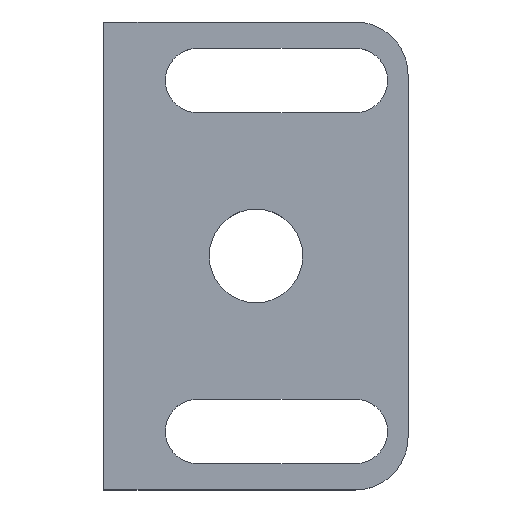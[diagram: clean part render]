
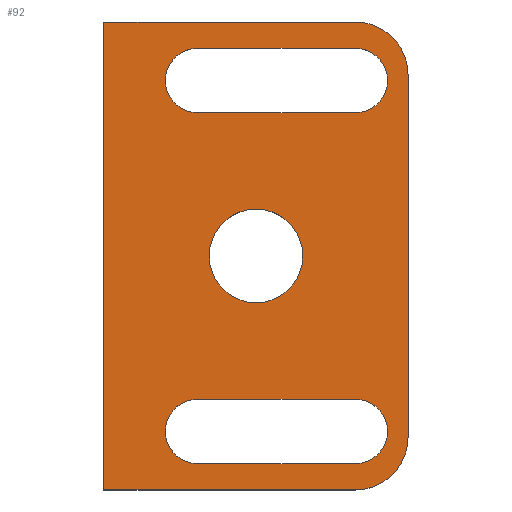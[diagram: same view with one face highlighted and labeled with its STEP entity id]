
A CAD part, top view. The second image highlights one B-rep face of the part: STEP entity #92.
In plain terms, the highlighted planar face has unit normal (0, 0, 1).
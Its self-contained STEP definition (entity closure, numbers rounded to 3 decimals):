
#92 = ADVANCED_FACE( '', ( #131, #132, #133, #134 ), #135, .T. );
#131 = FACE_OUTER_BOUND( '', #173, .T. );
#132 = FACE_BOUND( '', #174, .T. );
#133 = FACE_BOUND( '', #175, .T. );
#134 = FACE_BOUND( '', #176, .T. );
#135 = PLANE( '', #177 );
#173 = EDGE_LOOP( '', ( #309, #310, #311, #312, #313, #314 ) );
#174 = EDGE_LOOP( '', ( #315, #316 ) );
#175 = EDGE_LOOP( '', ( #317, #318, #319, #320 ) );
#176 = EDGE_LOOP( '', ( #321, #322, #323, #324 ) );
#177 = AXIS2_PLACEMENT_3D( '', #325, #326, #327 );
#309 = ORIENTED_EDGE( '', *, *, #375, .T. );
#310 = ORIENTED_EDGE( '', *, *, #360, .T. );
#311 = ORIENTED_EDGE( '', *, *, #364, .T. );
#312 = ORIENTED_EDGE( '', *, *, #367, .T. );
#313 = ORIENTED_EDGE( '', *, *, #370, .T. );
#314 = ORIENTED_EDGE( '', *, *, #373, .T. );
#315 = ORIENTED_EDGE( '', *, *, #329, .F. );
#316 = ORIENTED_EDGE( '', *, *, #357, .F. );
#317 = ORIENTED_EDGE( '', *, *, #355, .F. );
#318 = ORIENTED_EDGE( '', *, *, #346, .F. );
#319 = ORIENTED_EDGE( '', *, *, #350, .F. );
#320 = ORIENTED_EDGE( '', *, *, #353, .F. );
#321 = ORIENTED_EDGE( '', *, *, #343, .F. );
#322 = ORIENTED_EDGE( '', *, *, #334, .F. );
#323 = ORIENTED_EDGE( '', *, *, #338, .F. );
#324 = ORIENTED_EDGE( '', *, *, #341, .F. );
#325 = CARTESIAN_POINT( '', ( 0., 0., 2.5 ) );
#326 = DIRECTION( '', ( 0., 0., 1. ) );
#327 = DIRECTION( '', ( 1., 0., 0. ) );
#329 = EDGE_CURVE( '', #376, #379, #380, .T. );
#334 = EDGE_CURVE( '', #387, #389, #390, .T. );
#338 = EDGE_CURVE( '', #394, #387, #396, .T. );
#341 = EDGE_CURVE( '', #399, #394, #401, .T. );
#343 = EDGE_CURVE( '', #389, #399, #403, .T. );
#346 = EDGE_CURVE( '', #407, #409, #410, .T. );
#350 = EDGE_CURVE( '', #414, #407, #416, .T. );
#353 = EDGE_CURVE( '', #419, #414, #421, .T. );
#355 = EDGE_CURVE( '', #409, #419, #423, .T. );
#357 = EDGE_CURVE( '', #379, #376, #425, .T. );
#360 = EDGE_CURVE( '', #431, #429, #432, .T. );
#364 = EDGE_CURVE( '', #429, #436, #438, .T. );
#367 = EDGE_CURVE( '', #436, #441, #443, .T. );
#370 = EDGE_CURVE( '', #441, #446, #448, .T. );
#373 = EDGE_CURVE( '', #446, #451, #453, .T. );
#375 = EDGE_CURVE( '', #451, #431, #455, .T. );
#376 = VERTEX_POINT( '', #456 );
#379 = VERTEX_POINT( '', #460 );
#380 = CIRCLE( '', #461, 4. );
#387 = VERTEX_POINT( '', #469 );
#389 = VERTEX_POINT( '', #472 );
#390 = CIRCLE( '', #473, 2.75 );
#394 = VERTEX_POINT( '', #479 );
#396 = LINE( '', #482, #483 );
#399 = VERTEX_POINT( '', #486 );
#401 = CIRCLE( '', #489, 2.75 );
#403 = LINE( '', #492, #493 );
#407 = VERTEX_POINT( '', #497 );
#409 = VERTEX_POINT( '', #500 );
#410 = CIRCLE( '', #501, 2.75 );
#414 = VERTEX_POINT( '', #507 );
#416 = LINE( '', #510, #511 );
#419 = VERTEX_POINT( '', #514 );
#421 = CIRCLE( '', #517, 2.75 );
#423 = LINE( '', #520, #521 );
#425 = CIRCLE( '', #523, 4. );
#429 = VERTEX_POINT( '', #528 );
#431 = VERTEX_POINT( '', #531 );
#432 = LINE( '', #532, #533 );
#436 = VERTEX_POINT( '', #538 );
#438 = CIRCLE( '', #541, 4.5 );
#441 = VERTEX_POINT( '', #545 );
#443 = LINE( '', #548, #549 );
#446 = VERTEX_POINT( '', #552 );
#448 = CIRCLE( '', #555, 4.5 );
#451 = VERTEX_POINT( '', #559 );
#453 = LINE( '', #562, #563 );
#455 = LINE( '', #566, #567 );
#456 = CARTESIAN_POINT( '', ( 17., 0., 2.5 ) );
#460 = CARTESIAN_POINT( '', ( 9., 0., 2.5 ) );
#461 = AXIS2_PLACEMENT_3D( '', #569, #570, #571 );
#469 = CARTESIAN_POINT( '', ( 21.5, -17.75, 2.5 ) );
#472 = CARTESIAN_POINT( '', ( 21.5, -12.25, 2.5 ) );
#473 = AXIS2_PLACEMENT_3D( '', #580, #581, #582 );
#479 = CARTESIAN_POINT( '', ( 8., -17.75, 2.5 ) );
#482 = CARTESIAN_POINT( '', ( 8., -17.75, 2.5 ) );
#483 = VECTOR( '', #586, 1. );
#486 = CARTESIAN_POINT( '', ( 8., -12.25, 2.5 ) );
#489 = AXIS2_PLACEMENT_3D( '', #591, #592, #593 );
#492 = CARTESIAN_POINT( '', ( 21.5, -12.25, 2.5 ) );
#493 = VECTOR( '', #595, 1. );
#497 = CARTESIAN_POINT( '', ( 21.5, 12.25, 2.5 ) );
#500 = CARTESIAN_POINT( '', ( 21.5, 17.75, 2.5 ) );
#501 = AXIS2_PLACEMENT_3D( '', #600, #601, #602 );
#507 = CARTESIAN_POINT( '', ( 8., 12.25, 2.5 ) );
#510 = CARTESIAN_POINT( '', ( 8., 12.25, 2.5 ) );
#511 = VECTOR( '', #606, 1. );
#514 = CARTESIAN_POINT( '', ( 8., 17.75, 2.5 ) );
#517 = AXIS2_PLACEMENT_3D( '', #611, #612, #613 );
#520 = CARTESIAN_POINT( '', ( 21.5, 17.75, 2.5 ) );
#521 = VECTOR( '', #615, 1. );
#523 = AXIS2_PLACEMENT_3D( '', #619, #620, #621 );
#528 = CARTESIAN_POINT( '', ( 21.5, -20., 2.5 ) );
#531 = CARTESIAN_POINT( '', ( 0., -20., 2.5 ) );
#532 = CARTESIAN_POINT( '', ( 0., -20., 2.5 ) );
#533 = VECTOR( '', #624, 1. );
#538 = CARTESIAN_POINT( '', ( 26., -15.5, 2.5 ) );
#541 = AXIS2_PLACEMENT_3D( '', #630, #631, #632 );
#545 = CARTESIAN_POINT( '', ( 26., 15.5, 2.5 ) );
#548 = CARTESIAN_POINT( '', ( 26., -15.5, 2.5 ) );
#549 = VECTOR( '', #635, 1. );
#552 = CARTESIAN_POINT( '', ( 21.5, 20., 2.5 ) );
#555 = AXIS2_PLACEMENT_3D( '', #640, #641, #642 );
#559 = CARTESIAN_POINT( '', ( 0., 20., 2.5 ) );
#562 = CARTESIAN_POINT( '', ( 21.5, 20., 2.5 ) );
#563 = VECTOR( '', #645, 1. );
#566 = CARTESIAN_POINT( '', ( 0., 20., 2.5 ) );
#567 = VECTOR( '', #647, 1. );
#569 = CARTESIAN_POINT( '', ( 13., 0., 2.5 ) );
#570 = DIRECTION( '', ( 0., 0., 1. ) );
#571 = DIRECTION( '', ( 1., 0., 0. ) );
#580 = CARTESIAN_POINT( '', ( 21.5, -15., 2.5 ) );
#581 = DIRECTION( '', ( 0., 0., 1. ) );
#582 = DIRECTION( '', ( 0., -1., 0. ) );
#586 = DIRECTION( '', ( 1., 0., 0. ) );
#591 = CARTESIAN_POINT( '', ( 8., -15., 2.5 ) );
#592 = DIRECTION( '', ( 0., 0., 1. ) );
#593 = DIRECTION( '', ( 0., 1., 0. ) );
#595 = DIRECTION( '', ( -1., 0., 0. ) );
#600 = CARTESIAN_POINT( '', ( 21.5, 15., 2.5 ) );
#601 = DIRECTION( '', ( 0., 0., 1. ) );
#602 = DIRECTION( '', ( 0., -1., 0. ) );
#606 = DIRECTION( '', ( 1., 0., 0. ) );
#611 = CARTESIAN_POINT( '', ( 8., 15., 2.5 ) );
#612 = DIRECTION( '', ( 0., 0., 1. ) );
#613 = DIRECTION( '', ( 0., 1., 0. ) );
#615 = DIRECTION( '', ( -1., 0., 0. ) );
#619 = CARTESIAN_POINT( '', ( 13., 0., 2.5 ) );
#620 = DIRECTION( '', ( 0., 0., 1. ) );
#621 = DIRECTION( '', ( 1., 0., 0. ) );
#624 = DIRECTION( '', ( 1., 0., 0. ) );
#630 = CARTESIAN_POINT( '', ( 21.5, -15.5, 2.5 ) );
#631 = DIRECTION( '', ( 0., 0., 1. ) );
#632 = DIRECTION( '', ( 0., -1., 0. ) );
#635 = DIRECTION( '', ( 0., 1., 0. ) );
#640 = CARTESIAN_POINT( '', ( 21.5, 15.5, 2.5 ) );
#641 = DIRECTION( '', ( 0., 0., 1. ) );
#642 = DIRECTION( '', ( 1., 0., 0. ) );
#645 = DIRECTION( '', ( -1., 0., 0. ) );
#647 = DIRECTION( '', ( 0., -1., 0. ) );
